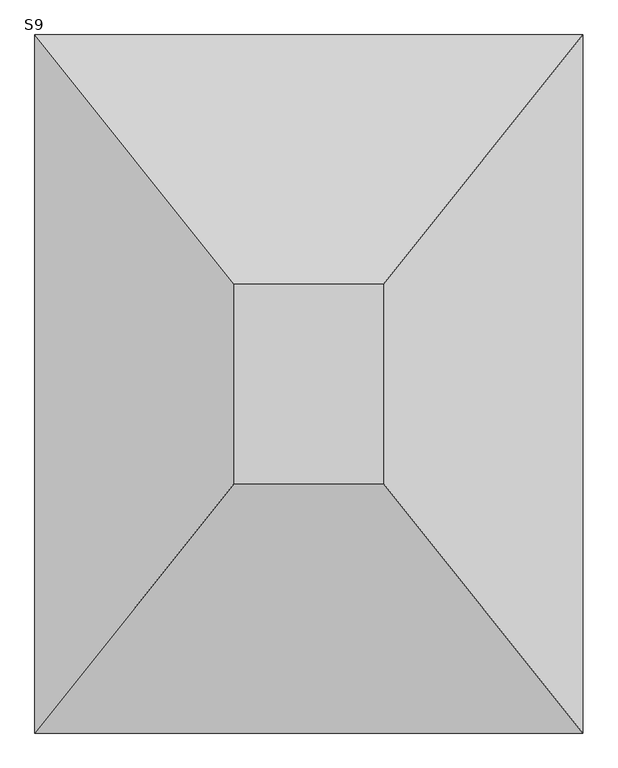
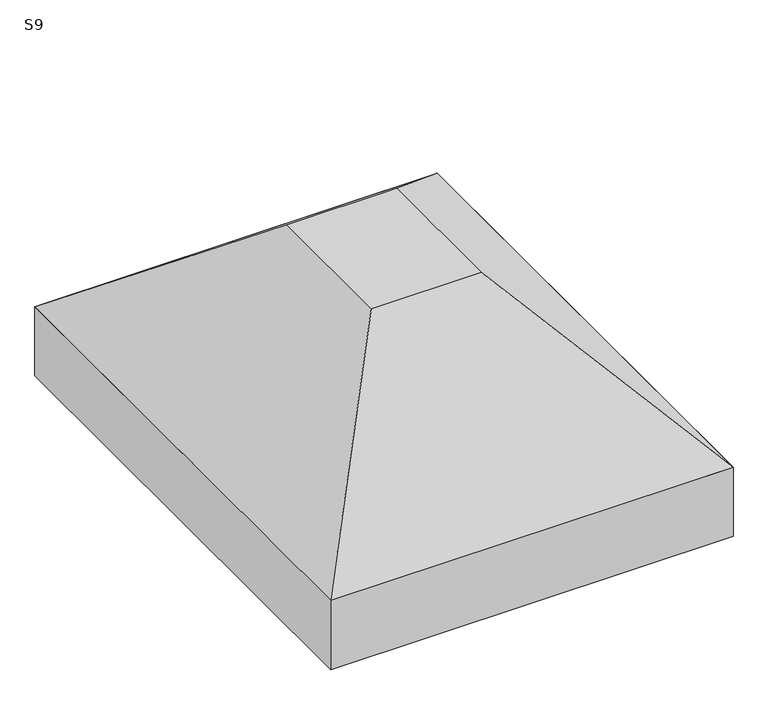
"""IFC4 building model written with IfcOpenShell, lengths in millimetres: fastener geometry, TQS - Sapata : S9."""

from ifc_helpers import new_model, si_unit, frame, origin, place, context, project, spatial, polyline, outline, extrude, faceted_brep, source, transform, mapped, element, save


def s9_21d930d4(model_context):
    return source(origin(), model_context, "Body", "SolidModel", [
        faceted_brep([(-50.0, 0.0, 0.0), (-350.0, 0.0, 0.0), (-350.0, -400.0, 0.0), (-50.0, -400.0, 0.0), (350.0, 500.0, -400.0), (350.0, -900.0, -400.0), (-750.0, -900.0, -400.0), (-750.0, 500.0, -400.0)], [[[0, 1, 2, 3]], [[4, 5, 6, 7]], [[4, 7, 1, 0]], [[7, 6, 2, 1]], [[6, 5, 3, 2]], [[5, 4, 0, 3]]]),
        extrude(outline(polyline([(350.0, 500.0), (350.0, -900.0), (-750.0, -900.0), (-750.0, 500.0), (350.0, 500.0)])), frame((0.0, 0.0, -600.0), z_axis=(0.0, 0.0, 1.0), x_axis=(1.0, 0.0, 0.0)), (0.0, 0.0, 1.0), 200.0),
    ])


if __name__ == "__main__":
    model = new_model("IFC4")
    model_context = context("Model", 3, world=origin())
    ifc_project = project(units=[si_unit("LENGTHUNIT", "METRE", prefix="MILLI")], contexts=[model_context])
    site = spatial("IfcSite", under=ifc_project)
    building = spatial("IfcBuilding", under=site)
    placement = place(None, origin())
    s9_shape = s9_21d930d4(model_context)
    element("IfcFastener", 1, ObjectType="TQS - Sapata : S9", at=placement, inside=building, context=model_context, shape_type="MappedRepresentation", body=[
        mapped(s9_shape, transform((0.0, 0.0, 0.0), x_axis=(1.0, 0.0, 0.0), y_axis=(0.0, 1.0, 0.0), z_axis=(0.0, 0.0, 1.0))),
    ])
    save(model, "model.ifc")
